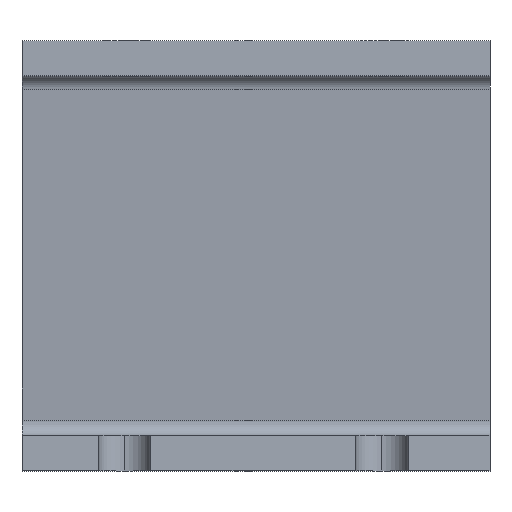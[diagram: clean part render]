
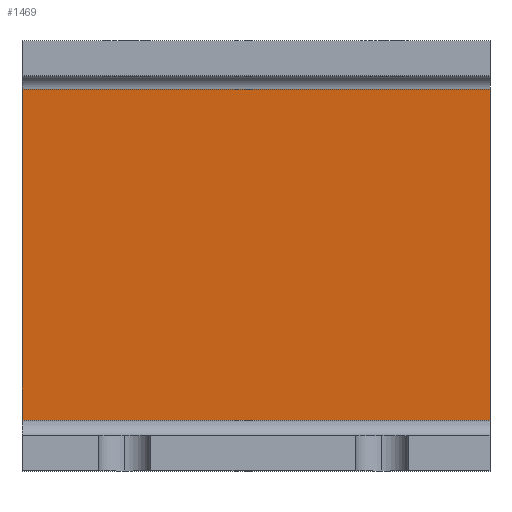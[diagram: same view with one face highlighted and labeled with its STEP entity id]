
A CAD part, top view. The second image highlights one B-rep face of the part: STEP entity #1469.
In plain terms, the highlighted planar face has unit normal (0, -0.087, 0.996).
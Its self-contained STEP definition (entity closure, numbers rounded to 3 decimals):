
#62 = CARTESIAN_POINT ( 'NONE',  ( 80., -64.782, -26.143 ) ) ;
#89 = CARTESIAN_POINT ( 'NONE',  ( 80., -67.5, -26.381 ) ) ;
#103 = VERTEX_POINT ( 'NONE', #138 ) ;
#104 = EDGE_CURVE ( 'NONE', #106, #530, #487, .T. ) ;
#106 = VERTEX_POINT ( 'NONE', #261 ) ;
#109 = ORIENTED_EDGE ( 'NONE', *, *, #1186, .T. ) ;
#113 = VECTOR ( 'NONE', #443, 1000. ) ;
#138 = CARTESIAN_POINT ( 'NONE',  ( 80., -8.282, -21.2 ) ) ;
#190 = LINE ( 'NONE', #62, #1269 ) ;
#257 = FACE_OUTER_BOUND ( 'NONE', #1379, .T. ) ;
#261 = CARTESIAN_POINT ( 'NONE',  ( 0., -64.782, -26.143 ) ) ;
#272 = AXIS2_PLACEMENT_3D ( 'NONE', #1558, #812, #1061 ) ;
#296 = EDGE_CURVE ( 'NONE', #103, #530, #1645, .T. ) ;
#370 = VECTOR ( 'NONE', #987, 1000. ) ;
#374 = VECTOR ( 'NONE', #1157, 1000. ) ;
#415 = EDGE_CURVE ( 'NONE', #106, #1475, #190, .T. ) ;
#443 = DIRECTION ( 'NONE',  ( -1., 0., 0. ) ) ;
#487 = LINE ( 'NONE', #1036, #374 ) ;
#512 = ORIENTED_EDGE ( 'NONE', *, *, #104, .F. ) ;
#530 = VERTEX_POINT ( 'NONE', #1535 ) ;
#576 = CARTESIAN_POINT ( 'NONE',  ( 0., -8.282, -21.2 ) ) ;
#812 = DIRECTION ( 'NONE',  ( 0., 0.087, -0.996 ) ) ;
#948 = CARTESIAN_POINT ( 'NONE',  ( 80., -64.782, -26.143 ) ) ;
#987 = DIRECTION ( 'NONE',  ( 0., 0.996, 0.087 ) ) ;
#1036 = CARTESIAN_POINT ( 'NONE',  ( 0., -67.5, -26.381 ) ) ;
#1061 = DIRECTION ( 'NONE',  ( 0., 0.996, 0.087 ) ) ;
#1157 = DIRECTION ( 'NONE',  ( 0., 0.996, 0.087 ) ) ;
#1186 = EDGE_CURVE ( 'NONE', #1475, #103, #1540, .T. ) ;
#1220 = ORIENTED_EDGE ( 'NONE', *, *, #296, .T. ) ;
#1269 = VECTOR ( 'NONE', #1335, 1000. ) ;
#1310 = PLANE ( 'NONE',  #272 ) ;
#1335 = DIRECTION ( 'NONE',  ( 1., 0., 0. ) ) ;
#1377 = ORIENTED_EDGE ( 'NONE', *, *, #415, .T. ) ;
#1379 = EDGE_LOOP ( 'NONE', ( #512, #1377, #109, #1220 ) ) ;
#1469 = ADVANCED_FACE ( 'NONE', ( #257 ), #1310, .F. ) ;
#1475 = VERTEX_POINT ( 'NONE', #948 ) ;
#1535 = CARTESIAN_POINT ( 'NONE',  ( 0., -8.282, -21.2 ) ) ;
#1540 = LINE ( 'NONE', #89, #370 ) ;
#1558 = CARTESIAN_POINT ( 'NONE',  ( 0., -67.5, -26.381 ) ) ;
#1645 = LINE ( 'NONE', #576, #113 ) ;
